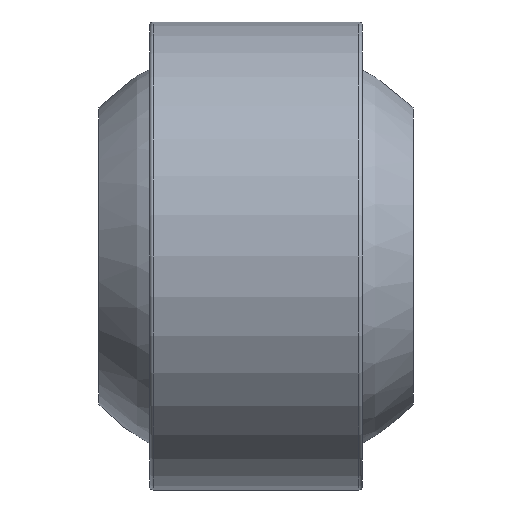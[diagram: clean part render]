
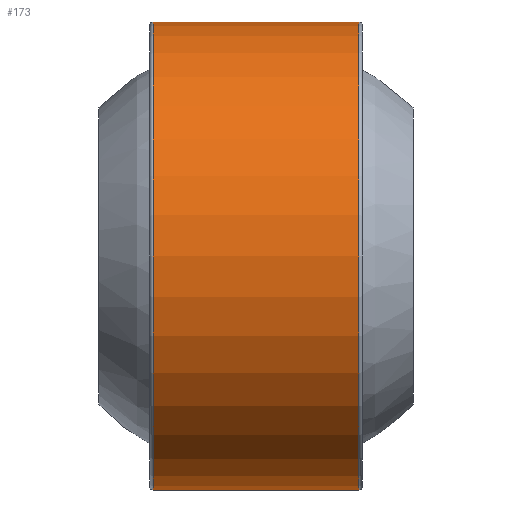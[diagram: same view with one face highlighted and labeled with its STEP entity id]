
A CAD part, front view. The second image highlights one B-rep face of the part: STEP entity #173.
In plain terms, the highlighted cylindrical face has radius 27.5 mm (diameter 55 mm), a full revolution.
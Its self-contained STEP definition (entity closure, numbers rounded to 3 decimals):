
#173 = ADVANCED_FACE( '', ( #193, #194 ), #195, .T. );
#193 = FACE_OUTER_BOUND( '', #224, .T. );
#194 = FACE_OUTER_BOUND( '', #225, .T. );
#195 = CYLINDRICAL_SURFACE( '', #226, 27.5 );
#224 = EDGE_LOOP( '', ( #262 ) );
#225 = EDGE_LOOP( '', ( #263 ) );
#226 = AXIS2_PLACEMENT_3D( '', #264, #265, #266 );
#262 = ORIENTED_EDGE( '', *, *, #297, .T. );
#263 = ORIENTED_EDGE( '', *, *, #296, .F. );
#264 = CARTESIAN_POINT( '', ( 12.5, 0., 0. ) );
#265 = DIRECTION( '', ( -1., 0., 0. ) );
#266 = DIRECTION( '', ( 0., 0., -1. ) );
#296 = EDGE_CURVE( '', #310, #310, #311, .T. );
#297 = EDGE_CURVE( '', #312, #312, #313, .T. );
#310 = VERTEX_POINT( '', #330 );
#311 = CIRCLE( '', #331, 27.5 );
#312 = VERTEX_POINT( '', #332 );
#313 = CIRCLE( '', #333, 27.5 );
#330 = CARTESIAN_POINT( '', ( 12.1, 0., -27.5 ) );
#331 = AXIS2_PLACEMENT_3D( '', #354, #355, #356 );
#332 = CARTESIAN_POINT( '', ( -12.1, 0., -27.5 ) );
#333 = AXIS2_PLACEMENT_3D( '', #357, #358, #359 );
#354 = CARTESIAN_POINT( '', ( 12.1, 0., 0. ) );
#355 = DIRECTION( '', ( 1., 0., 0. ) );
#356 = DIRECTION( '', ( 0., 0., -1. ) );
#357 = CARTESIAN_POINT( '', ( -12.1, 0., 0. ) );
#358 = DIRECTION( '', ( 1., 0., 0. ) );
#359 = DIRECTION( '', ( 0., 0., -1. ) );
